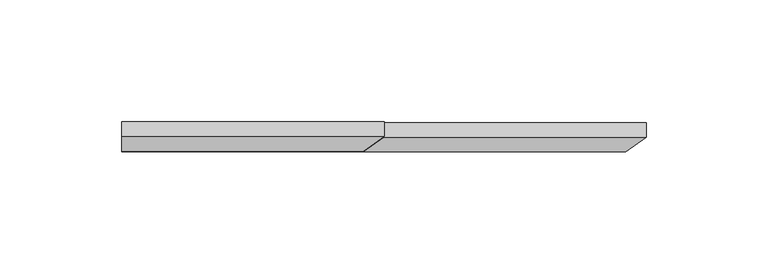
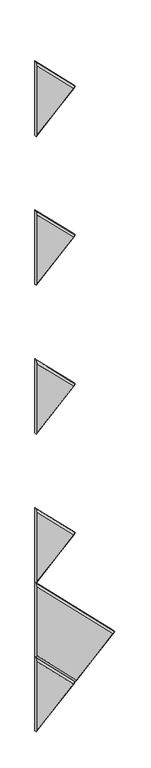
"""IFC4 building model written with IfcOpenShell, lengths in millimetres: proxy geometry, Wall_Wisteria 4.3dm."""

from ifc_helpers import new_model, si_unit, origin, place, context, project, spatial, faceted_brep, source, transform, mapped, element, save


def generic_models_fd96e6b6(model_context):
    return source(origin(), model_context, "Body", "Brep", [
        faceted_brep([(2254.2096042, 12.0, 644.4621952), (2469.4318385, 12.0, 429.1847753), (2361.6549518, 12.0, 321.4355168), (2254.2096042, 12.0, 428.9084147), (2361.6549518, 6.0, 321.4355168), (2469.4318385, 6.0, 429.1847753), (2254.2096042, 6.0, 644.4621952), (2254.2096042, 6.0, 428.9084147), (2254.2096042, 0.0, 635.9758259), (2254.2096042, 0.0, 437.3947841), (2361.6560395, 0.0, 329.9207981), (2460.9465572, 0.0, 429.185863)], [[[0, 1, 2, 3]], [[4, 2, 1, 5]], [[0, 6, 5, 1]], [[7, 3, 2, 4]], [[8, 9, 10, 11]], [[4, 5, 11, 10]], [[6, 8, 11, 5]], [[9, 7, 4, 10]], [[0, 3, 7, 9, 8, 6]]]),
        faceted_brep([(2254.2096042, 12.0, 2153.3386586), (2361.8759778, 12.0, 2045.6446779), (2254.2096042, 12.0, 1938.0059042), (2254.2096042, 6.0, 1938.0059042), (2361.8759778, 6.0, 2045.6446779), (2254.2096042, 6.0, 2153.3386586), (2254.2096042, 0.0, 2144.8522893), (2254.2096042, 0.0, 1946.490098), (2353.3906965, 0.0, 2045.6457656)], [[[0, 1, 2]], [[3, 2, 1, 4]], [[0, 5, 4, 1]], [[6, 7, 8]], [[7, 3, 4, 8]], [[5, 6, 8, 4]], [[0, 2, 3, 7, 6, 5]]]),
        faceted_brep([(2254.2096042, 12.0, 1722.2310976), (2361.8207213, 12.0, 1614.5923876), (2254.2096042, 12.0, 1507.0088562), (2254.2096042, 6.0, 1507.0088562), (2361.8207213, 6.0, 1614.5923876), (2254.2096042, 6.0, 1722.2310976), (2254.2096042, 0.0, 1713.7447283), (2254.2096042, 0.0, 1515.4930501), (2353.33544, 0.0, 1614.5934754)], [[[0, 1, 2]], [[3, 2, 1, 4]], [[0, 5, 4, 1]], [[6, 7, 8]], [[7, 3, 4, 8]], [[5, 6, 8, 4]], [[0, 2, 3, 7, 6, 5]]]),
        faceted_brep([(2254.2096042, 12.0, 1291.1235367), (2361.7654648, 12.0, 1183.5400974), (2254.2096042, 12.0, 1076.0118083), (2254.2096042, 6.0, 1076.0118083), (2361.7654648, 6.0, 1183.5400974), (2254.2096042, 6.0, 1291.1235367), (2254.2096042, 0.0, 1282.6371673), (2254.2096042, 0.0, 1084.4960022), (2353.2801835, 0.0, 1183.5411851)], [[[0, 1, 2]], [[3, 2, 1, 4]], [[0, 5, 4, 1]], [[6, 7, 8]], [[7, 3, 4, 8]], [[5, 6, 8, 4]], [[0, 2, 3, 7, 6, 5]]]),
        faceted_brep([(2254.2096042, 12.0, 860.0159757), (2361.7102083, 12.0, 752.4878071), (2254.2096042, 12.0, 645.0147604), (2254.2096042, 6.0, 645.0147604), (2361.7102083, 6.0, 752.4878071), (2254.2096042, 6.0, 860.0159757), (2254.2096042, 0.0, 851.5296064), (2254.2096042, 0.0, 653.4989543), (2353.224927, 0.0, 752.4888948)], [[[0, 1, 2]], [[3, 2, 1, 4]], [[0, 5, 4, 1]], [[6, 7, 8]], [[7, 3, 4, 8]], [[5, 6, 8, 4]], [[0, 2, 3, 7, 6, 5]]]),
        faceted_brep([(2254.2096042, 12.0, 428.9084147), (2361.6549518, 12.0, 321.4355168), (2254.2096042, 12.0, 214.0177125), (2254.2096042, 6.0, 214.0177125), (2361.6549518, 6.0, 321.4355168), (2254.2096042, 6.0, 428.9084147), (2254.2096042, 0.0, 420.4220454), (2254.2096042, 0.0, 222.5019064), (2353.1696705, 0.0, 321.4366045)], [[[0, 1, 2]], [[3, 2, 1, 4]], [[0, 5, 4, 1]], [[6, 7, 8]], [[7, 3, 4, 8]], [[5, 6, 8, 4]], [[0, 2, 3, 7, 6, 5]]]),
    ])


if __name__ == "__main__":
    model = new_model("IFC4")
    model_context = context("Model", 3, world=origin())
    ifc_project = project(units=[si_unit("LENGTHUNIT", "METRE", prefix="MILLI")], contexts=[model_context])
    site = spatial("IfcSite", under=ifc_project)
    building = spatial("IfcBuilding", under=site)
    placement = place(None, origin())
    generic_models_shape = generic_models_fd96e6b6(model_context)
    element("IfcBuildingElementProxy", 1, Name="Wall_Wisteria 4.3dm", ObjectType="Wall_Wisteria 4.3dm", at=placement, inside=building, context=model_context, shape_type="MappedRepresentation", body=[
        mapped(generic_models_shape, transform((0.0, 0.0, 0.0), x_axis=(1.0, 0.0, 0.0), y_axis=(0.0, 1.0, 0.0), z_axis=(0.0, 0.0, 1.0))),
    ])
    save(model, "model.ifc")
